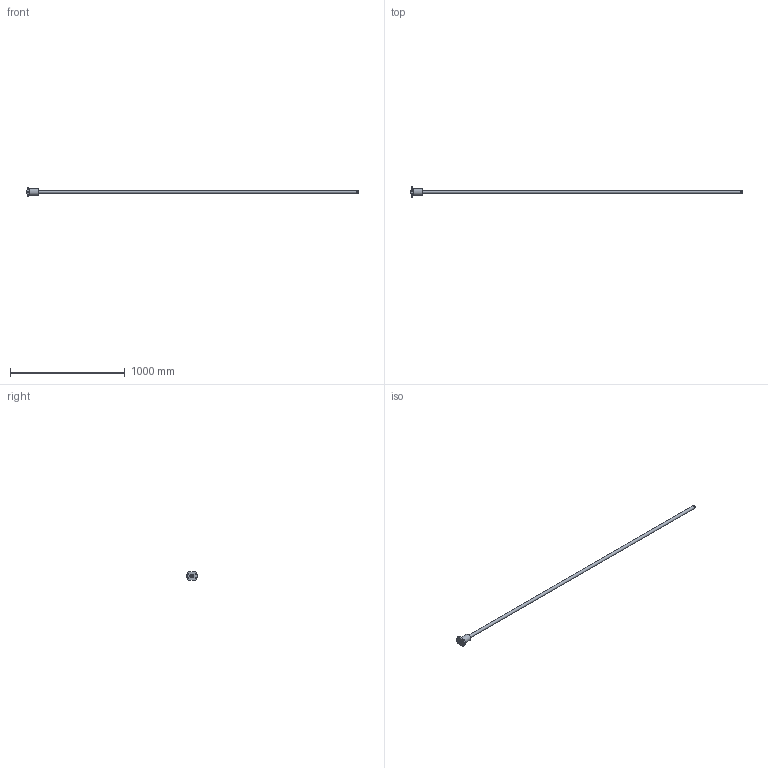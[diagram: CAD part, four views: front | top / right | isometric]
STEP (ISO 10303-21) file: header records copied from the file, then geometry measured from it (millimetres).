
FILE_DESCRIPTION( ( 'STEP AP203' ), ' ' );
FILE_NAME( 'p:/temp/worker_16/3916_4020/app_57_12018011810430199242593818fa3fd_000000_00_00_000000/format_0/BTK 2510V-5.3ZZ+2891LT_27730.stp', '2018-01-18T09:43:02', ( '' ), ( '' ), ' ', 'PARTsolutions', ' ' );
FILE_SCHEMA( ( 'CONFIG_CONTROL_DESIGN' ) );
Length unit declared in the file: millimetre
Products named in the file (3): BTK 2510V-5.3ZZ+2891LT_27730; _BTK 2510V-5.32773 Shaft; _BTK 2510V-5.3ZZ Nut
Assembly tree (2 placements, depth 2):
  BTK 2510V-5.3ZZ+2891LT_27730
    _BTK 2510V-5.32773 Shaft
    _BTK 2510V-5.3ZZ Nut
Bounding box: 2891 x 96 x 72 mm (x, y, z)
Volume: 1687634.4 mm3; surface area: 270340.7 mm2
Topology: 2 solids, 2 shells, 39 faces, 84 edges, 55 vertices
Faces by surface type: cylinder 17, plane 14, cone 8
Full cylindrical faces by diameter (mm): 4.917 x1, 9 x4, 20 x2, 25 x4, 30 x2, 54 x1, 60 x1
Entity records: 1200 total; most frequent: CARTESIAN_POINT 301, DIRECTION 174, ORIENTED_EDGE 122, AXIS2_PLACEMENT_3D 82, EDGE_LOOP 76, EDGE_CURVE 61, FACE_OUTER_BOUND 54, VERTEX_POINT 51
